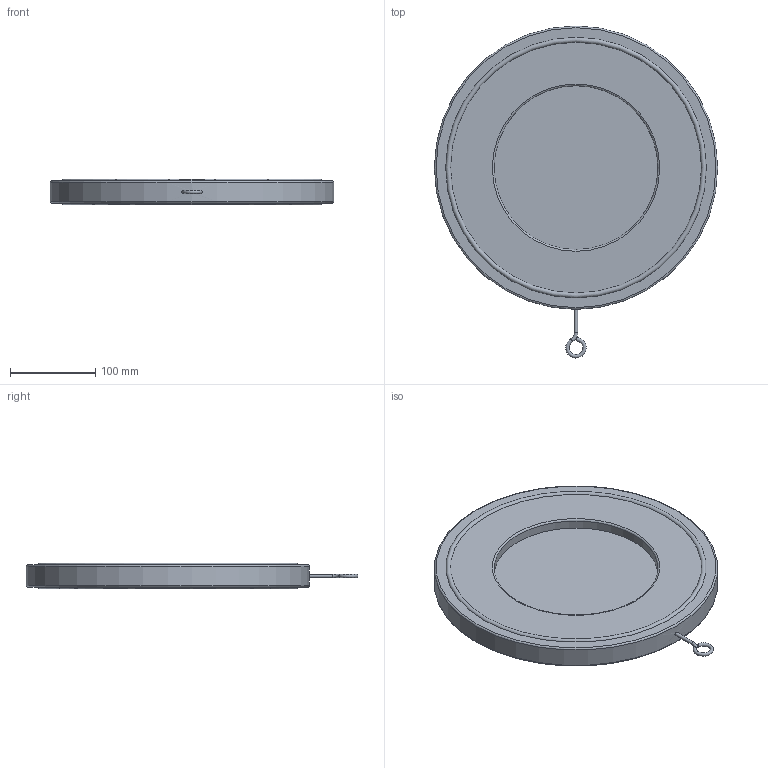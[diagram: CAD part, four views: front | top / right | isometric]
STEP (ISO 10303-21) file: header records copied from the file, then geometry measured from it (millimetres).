
FILE_DESCRIPTION( ( 'Unknown' ), '1' );
FILE_NAME( 'C:/Documents and Settings/Klaus/My Documents/Rootsi BPS 3D, Klaus/BPS 6505 swing check valve/STEP/BPS6505250 swing check valve DN250.stp', 'Unknown', ( 'Unknown' ), ( 'Unknown' ), 'PSStep 10.1', 'Unknown', ' ' );
FILE_SCHEMA( ( 'AUTOMOTIVE_DESIGN { 1 0 10303 214 1 1 1 1 }' ) );
Length unit declared in the file: millimetre
Products named in the file (1): 1
Bounding box: 332 x 388.98 x 29.99 mm (x, y, z)
Volume: 1878384.3 mm3; surface area: 229573.7 mm2
Topology: 1 solids, 1 shells, 238 faces, 596 edges, 391 vertices
Faces by surface type: plane 154, extrusion 57, cylinder 13, torus 11, bspline 2, cone 1
Full cylindrical faces by diameter (mm): 4 x1, 18 x2, 192 x1, 332 x1
Entity records: 10830 total; most frequent: CARTESIAN_POINT 3864, ORIENTED_EDGE 1148, DIRECTION 740, EDGE_CURVE 574, VERTEX_POINT 387, B_SPLINE_CURVE_WITH_KNOTS 362, EDGE_LOOP 291, VECTOR 272
